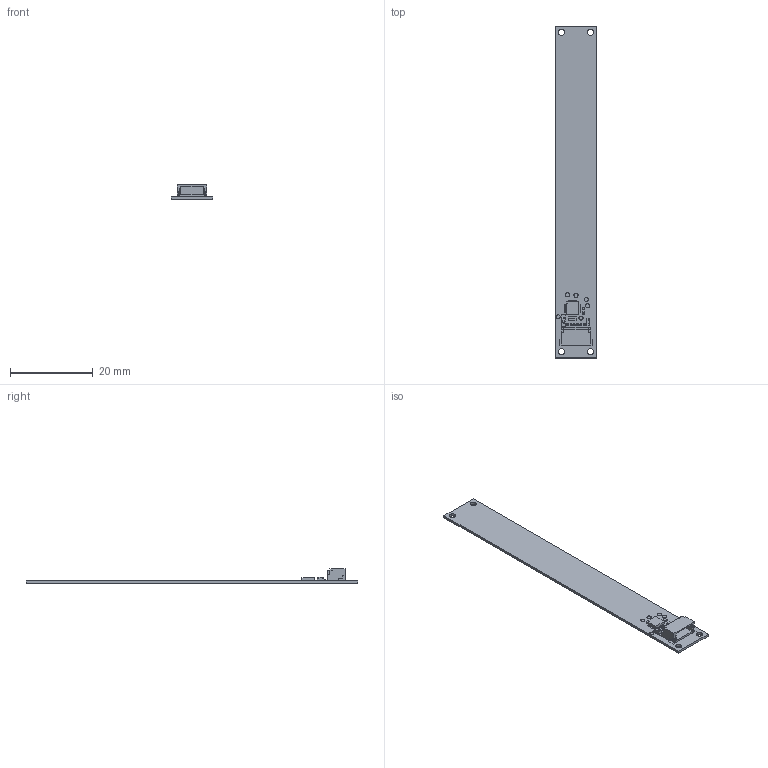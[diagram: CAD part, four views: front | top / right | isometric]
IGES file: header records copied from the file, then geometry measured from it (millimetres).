
Global section: file name: Filename.iges; native system: Open CASCADE 7.4; preprocessor: Open CASCADE IGES processor 7.4; date: 20200723.124230; units: millimetre
Bounding box: 10 x 80 x 3.5 mm (x, y, z)
Surface area: 2238.1 mm2 (no closed solid volume)
Topology: 0 solids, 0 shells, 1174 faces, 5804 edges, 7528 vertices
Faces by surface type: plane 1044, revolution 130
